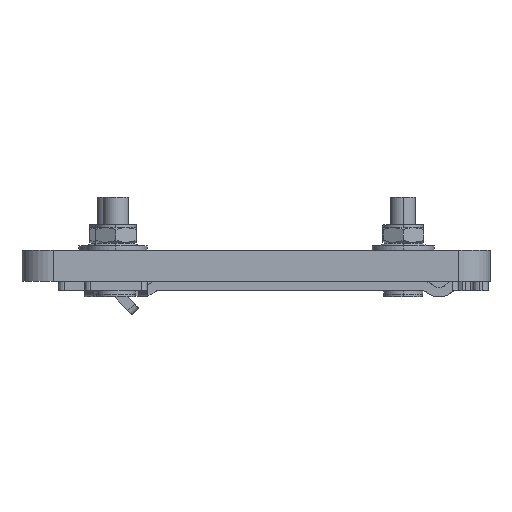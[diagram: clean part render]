
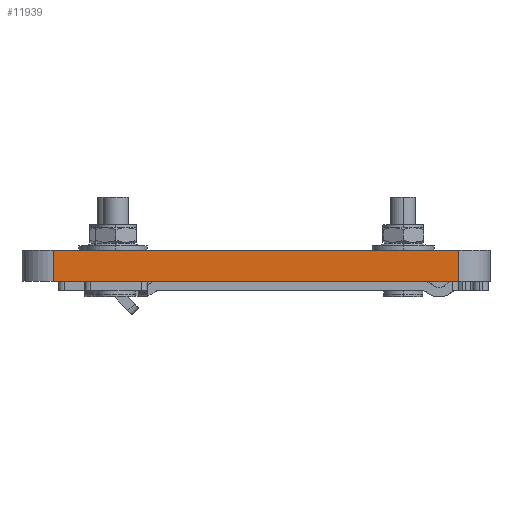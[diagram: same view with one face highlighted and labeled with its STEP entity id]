
A CAD part, front view. The second image highlights one B-rep face of the part: STEP entity #11939.
In plain terms, the highlighted planar face has unit normal (0, -1, 0).
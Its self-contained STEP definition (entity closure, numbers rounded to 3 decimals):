
#297 = AXIS2_PLACEMENT_3D ( 'NONE', #9674, #8679, #1808 ) ;
#485 = ORIENTED_EDGE ( 'NONE', *, *, #10671, .F. ) ;
#611 = ORIENTED_EDGE ( 'NONE', *, *, #14439, .F. ) ;
#669 = PLANE ( 'NONE',  #297 ) ;
#883 = ORIENTED_EDGE ( 'NONE', *, *, #14009, .T. ) ;
#1054 = VERTEX_POINT ( 'NONE', #8782 ) ;
#1057 = EDGE_CURVE ( 'NONE', #11696, #1054, #10984, .T. ) ;
#1276 = CARTESIAN_POINT ( 'NONE',  ( 65., -270., 100. ) ) ;
#1808 = DIRECTION ( 'NONE',  ( 0., 0., -1. ) ) ;
#2963 = DIRECTION ( 'NONE',  ( 0., 0., -1. ) ) ;
#3035 = DIRECTION ( 'NONE',  ( 0., 0., -1. ) ) ;
#3057 = ORIENTED_EDGE ( 'NONE', *, *, #1057, .T. ) ;
#4018 = LINE ( 'NONE', #1276, #4759 ) ;
#4064 = VERTEX_POINT ( 'NONE', #5141 ) ;
#4431 = VECTOR ( 'NONE', #2963, 1000. ) ;
#4611 = LINE ( 'NONE', #6532, #4431 ) ;
#4759 = VECTOR ( 'NONE', #10270, 1000. ) ;
#5141 = CARTESIAN_POINT ( 'NONE',  ( 65., -270., 110. ) ) ;
#6065 = CARTESIAN_POINT ( 'NONE',  ( 65., -270., 100. ) ) ;
#6071 = VECTOR ( 'NONE', #13941, 1000. ) ;
#6278 = LINE ( 'NONE', #7391, #6071 ) ;
#6532 = CARTESIAN_POINT ( 'NONE',  ( 65., -270., 110. ) ) ;
#7391 = CARTESIAN_POINT ( 'NONE',  ( 65., -270., 110. ) ) ;
#8397 = CARTESIAN_POINT ( 'NONE',  ( -65., -270., 110. ) ) ;
#8679 = DIRECTION ( 'NONE',  ( 0., -1., 0. ) ) ;
#8782 = CARTESIAN_POINT ( 'NONE',  ( -65., -270., 100. ) ) ;
#9674 = CARTESIAN_POINT ( 'NONE',  ( 65., -270., 110. ) ) ;
#10215 = VERTEX_POINT ( 'NONE', #6065 ) ;
#10270 = DIRECTION ( 'NONE',  ( -1., 0., 0. ) ) ;
#10295 = CARTESIAN_POINT ( 'NONE',  ( -65., -270., 110. ) ) ;
#10671 = EDGE_CURVE ( 'NONE', #10215, #1054, #4018, .T. ) ;
#10984 = LINE ( 'NONE', #10295, #11122 ) ;
#11122 = VECTOR ( 'NONE', #3035, 1000. ) ;
#11696 = VERTEX_POINT ( 'NONE', #8397 ) ;
#11939 = ADVANCED_FACE ( 'NONE', ( #14354 ), #669, .T. ) ;
#12331 = EDGE_LOOP ( 'NONE', ( #485, #611, #883, #3057 ) ) ;
#13941 = DIRECTION ( 'NONE',  ( -1., 0., 0. ) ) ;
#14009 = EDGE_CURVE ( 'NONE', #4064, #11696, #6278, .T. ) ;
#14354 = FACE_OUTER_BOUND ( 'NONE', #12331, .T. ) ;
#14439 = EDGE_CURVE ( 'NONE', #4064, #10215, #4611, .T. ) ;
